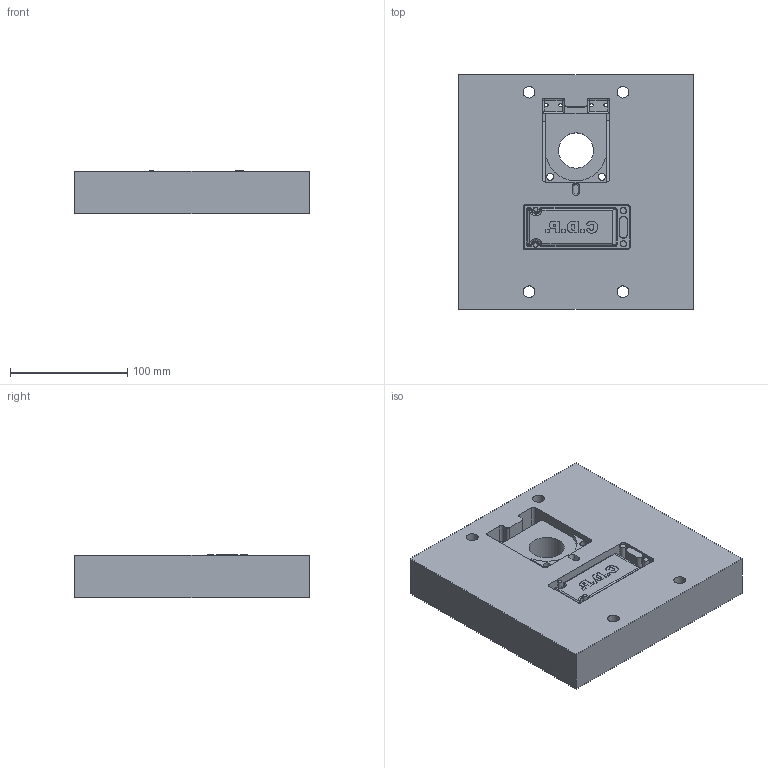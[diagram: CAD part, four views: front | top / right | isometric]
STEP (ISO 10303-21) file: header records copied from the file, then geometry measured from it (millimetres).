
FILE_DESCRIPTION( ( 'Unknown' ), '1' );
FILE_NAME( 'C:/Drawings/CDP/Support Bracket 91 Pitch And Shaft Support/Loose Support and 300 Shaft Support/Tooldrawings/MH Die Plate Outer Holes.stp', 'Unknown', ( 'Unknown' ), ( 'Unknown' ), 'XStep 1.0', 'Unknown', ' ' );
FILE_SCHEMA( ( 'CONFIG_CONTROL_DESIGN' ) );
Length unit declared in the file: millimetre
Products named in the file (1): 1
Bounding box: 200 x 200 x 37.18 mm (x, y, z)
Volume: 1348557.4 mm3; surface area: 132395.5 mm2
Topology: 1 solids, 1 shells, 198 faces, 481 edges, 291 vertices
Faces by surface type: plane 79, cylinder 59, cone 20, torus 18, bspline 8, extrusion 6, revolution 4, sphere 4
Full cylindrical faces by diameter (mm): 3 x4, 6 x2, 10 x4, 10.106 x4, 20 x1, 30 x1
Entity records: 8110 total; most frequent: CARTESIAN_POINT 3617, DIRECTION 920, ORIENTED_EDGE 866, EDGE_CURVE 433, AXIS2_PLACEMENT_3D 340, VERTEX_POINT 281, EDGE_LOOP 260, VECTOR 236
